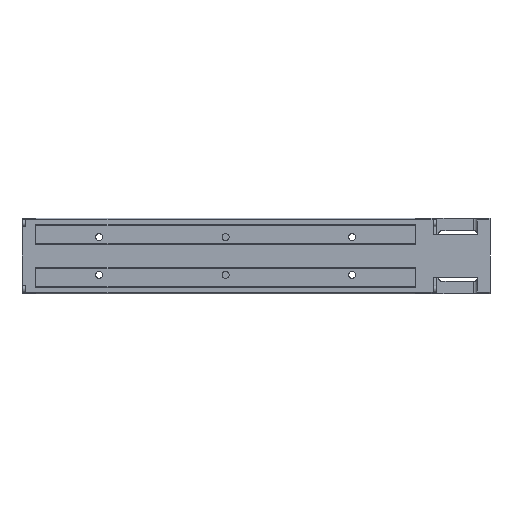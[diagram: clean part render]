
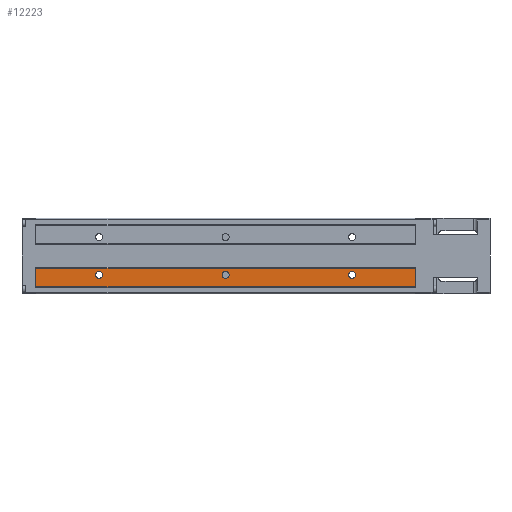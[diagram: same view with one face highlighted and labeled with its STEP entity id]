
A CAD part, front view. The second image highlights one B-rep face of the part: STEP entity #12223.
In plain terms, the highlighted planar face has unit normal (0, -1, 0).
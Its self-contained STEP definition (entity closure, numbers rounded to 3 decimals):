
#98 = EDGE_LOOP ( 'NONE', ( #3575, #5260 ) ) ;
#242 = EDGE_CURVE ( 'NONE', #13175, #6670, #13729, .T. ) ;
#914 = CIRCLE ( 'NONE', #13105, 2.75 ) ;
#948 = ORIENTED_EDGE ( 'NONE', *, *, #15288, .T. ) ;
#973 = VERTEX_POINT ( 'NONE', #8248 ) ;
#1055 = EDGE_CURVE ( 'NONE', #10771, #13934, #15475, .T. ) ;
#1237 = FACE_BOUND ( 'NONE', #13866, .T. ) ;
#1274 = EDGE_CURVE ( 'NONE', #6324, #973, #11889, .T. ) ;
#1409 = VECTOR ( 'NONE', #5207, 1000. ) ;
#2070 = CARTESIAN_POINT ( 'NONE',  ( 100., -23., -24.5 ) ) ;
#2800 = CARTESIAN_POINT ( 'NONE',  ( -200., -23., -12.25 ) ) ;
#3065 = CARTESIAN_POINT ( 'NONE',  ( -50., -23., -15. ) ) ;
#3230 = DIRECTION ( 'NONE',  ( 0., 1., 0. ) ) ;
#3254 = DIRECTION ( 'NONE',  ( 0., 0., 1. ) ) ;
#3342 = EDGE_CURVE ( 'NONE', #14793, #12583, #4741, .T. ) ;
#3575 = ORIENTED_EDGE ( 'NONE', *, *, #1055, .T. ) ;
#3655 = DIRECTION ( 'NONE',  ( 0., 1., 0. ) ) ;
#3708 = VERTEX_POINT ( 'NONE', #7443 ) ;
#3790 = ORIENTED_EDGE ( 'NONE', *, *, #242, .T. ) ;
#3836 = AXIS2_PLACEMENT_3D ( 'NONE', #9757, #12150, #14545 ) ;
#3938 = ORIENTED_EDGE ( 'NONE', *, *, #8297, .T. ) ;
#4022 = DIRECTION ( 'NONE',  ( 0., 1., 0. ) ) ;
#4215 = CARTESIAN_POINT ( 'NONE',  ( 50., -23., -17.75 ) ) ;
#4300 = EDGE_LOOP ( 'NONE', ( #13820, #3790 ) ) ;
#4321 = ORIENTED_EDGE ( 'NONE', *, *, #3342, .T. ) ;
#4741 = LINE ( 'NONE', #5157, #1409 ) ;
#4774 = CARTESIAN_POINT ( 'NONE',  ( 100., -23., -9.5 ) ) ;
#4850 = DIRECTION ( 'NONE',  ( 0., 0., -1. ) ) ;
#4924 = DIRECTION ( 'NONE',  ( 0., -1., 0. ) ) ;
#5032 = CARTESIAN_POINT ( 'NONE',  ( 50., -23., -15. ) ) ;
#5063 = CIRCLE ( 'NONE', #7677, 2.75 ) ;
#5157 = CARTESIAN_POINT ( 'NONE',  ( -50., -23., -24.5 ) ) ;
#5207 = DIRECTION ( 'NONE',  ( 1., 0., 0. ) ) ;
#5260 = ORIENTED_EDGE ( 'NONE', *, *, #7569, .T. ) ;
#5701 = ORIENTED_EDGE ( 'NONE', *, *, #11615, .F. ) ;
#5706 = EDGE_CURVE ( 'NONE', #6670, #13175, #5063, .T. ) ;
#5899 = CARTESIAN_POINT ( 'NONE',  ( -150., -23., -17.75 ) ) ;
#5918 = CARTESIAN_POINT ( 'NONE',  ( -50., -23., -12.25 ) ) ;
#5984 = AXIS2_PLACEMENT_3D ( 'NONE', #12407, #13724, #4850 ) ;
#6250 = DIRECTION ( 'NONE',  ( -1., 0., 0. ) ) ;
#6252 = AXIS2_PLACEMENT_3D ( 'NONE', #12846, #4022, #6399 ) ;
#6324 = VERTEX_POINT ( 'NONE', #4215 ) ;
#6399 = DIRECTION ( 'NONE',  ( 0., 0., -1. ) ) ;
#6670 = VERTEX_POINT ( 'NONE', #5899 ) ;
#6755 = ORIENTED_EDGE ( 'NONE', *, *, #15861, .F. ) ;
#6836 = EDGE_LOOP ( 'NONE', ( #5701, #4321, #948, #6755 ) ) ;
#6915 = VECTOR ( 'NONE', #7325, 1000. ) ;
#7220 = CARTESIAN_POINT ( 'NONE',  ( -50., -23., -17.75 ) ) ;
#7325 = DIRECTION ( 'NONE',  ( 1., 0., 0. ) ) ;
#7345 = LINE ( 'NONE', #2070, #13668 ) ;
#7443 = CARTESIAN_POINT ( 'NONE',  ( -200., -23., -9.5 ) ) ;
#7569 = EDGE_CURVE ( 'NONE', #13934, #10771, #914, .T. ) ;
#7677 = AXIS2_PLACEMENT_3D ( 'NONE', #9314, #3230, #13270 ) ;
#7708 = VECTOR ( 'NONE', #11584, 1000. ) ;
#8209 = DIRECTION ( 'NONE',  ( 0., 0., -1. ) ) ;
#8248 = CARTESIAN_POINT ( 'NONE',  ( 50., -23., -12.25 ) ) ;
#8297 = EDGE_CURVE ( 'NONE', #973, #6324, #11154, .T. ) ;
#9314 = CARTESIAN_POINT ( 'NONE',  ( -150., -23., -15. ) ) ;
#9660 = LINE ( 'NONE', #2800, #7708 ) ;
#9757 = CARTESIAN_POINT ( 'NONE',  ( -150., -23., -15. ) ) ;
#9952 = PLANE ( 'NONE',  #12568 ) ;
#10771 = VERTEX_POINT ( 'NONE', #7220 ) ;
#11154 = CIRCLE ( 'NONE', #6252, 2.75 ) ;
#11395 = CARTESIAN_POINT ( 'NONE',  ( 100., -23., -24.5 ) ) ;
#11584 = DIRECTION ( 'NONE',  ( 0., 0., 1. ) ) ;
#11615 = EDGE_CURVE ( 'NONE', #14793, #3708, #9660, .T. ) ;
#11651 = AXIS2_PLACEMENT_3D ( 'NONE', #5032, #3655, #15132 ) ;
#11889 = CIRCLE ( 'NONE', #11651, 2.75 ) ;
#12150 = DIRECTION ( 'NONE',  ( 0., 1., 0. ) ) ;
#12223 = ADVANCED_FACE ( 'NONE', ( #16174, #12820, #14230, #1237 ), #9952, .T. ) ;
#12407 = CARTESIAN_POINT ( 'NONE',  ( -50., -23., -15. ) ) ;
#12568 = AXIS2_PLACEMENT_3D ( 'NONE', #11395, #4924, #6250 ) ;
#12583 = VERTEX_POINT ( 'NONE', #13017 ) ;
#12820 = FACE_BOUND ( 'NONE', #4300, .T. ) ;
#12846 = CARTESIAN_POINT ( 'NONE',  ( 50., -23., -15. ) ) ;
#13017 = CARTESIAN_POINT ( 'NONE',  ( 100., -23., -24.5 ) ) ;
#13105 = AXIS2_PLACEMENT_3D ( 'NONE', #3065, #13143, #8209 ) ;
#13143 = DIRECTION ( 'NONE',  ( 0., 1., 0. ) ) ;
#13175 = VERTEX_POINT ( 'NONE', #13599 ) ;
#13228 = LINE ( 'NONE', #13616, #6915 ) ;
#13270 = DIRECTION ( 'NONE',  ( 0., 0., -1. ) ) ;
#13307 = CARTESIAN_POINT ( 'NONE',  ( -200., -23., -24.5 ) ) ;
#13599 = CARTESIAN_POINT ( 'NONE',  ( -150., -23., -12.25 ) ) ;
#13616 = CARTESIAN_POINT ( 'NONE',  ( -50., -23., -9.5 ) ) ;
#13668 = VECTOR ( 'NONE', #3254, 1000. ) ;
#13724 = DIRECTION ( 'NONE',  ( 0., 1., 0. ) ) ;
#13729 = CIRCLE ( 'NONE', #3836, 2.75 ) ;
#13820 = ORIENTED_EDGE ( 'NONE', *, *, #5706, .T. ) ;
#13866 = EDGE_LOOP ( 'NONE', ( #14630, #3938 ) ) ;
#13934 = VERTEX_POINT ( 'NONE', #5918 ) ;
#14230 = FACE_BOUND ( 'NONE', #98, .T. ) ;
#14545 = DIRECTION ( 'NONE',  ( 0., 0., -1. ) ) ;
#14630 = ORIENTED_EDGE ( 'NONE', *, *, #1274, .T. ) ;
#14793 = VERTEX_POINT ( 'NONE', #13307 ) ;
#14929 = VERTEX_POINT ( 'NONE', #4774 ) ;
#15132 = DIRECTION ( 'NONE',  ( 0., 0., -1. ) ) ;
#15288 = EDGE_CURVE ( 'NONE', #12583, #14929, #7345, .T. ) ;
#15475 = CIRCLE ( 'NONE', #5984, 2.75 ) ;
#15861 = EDGE_CURVE ( 'NONE', #3708, #14929, #13228, .T. ) ;
#16174 = FACE_OUTER_BOUND ( 'NONE', #6836, .T. ) ;
